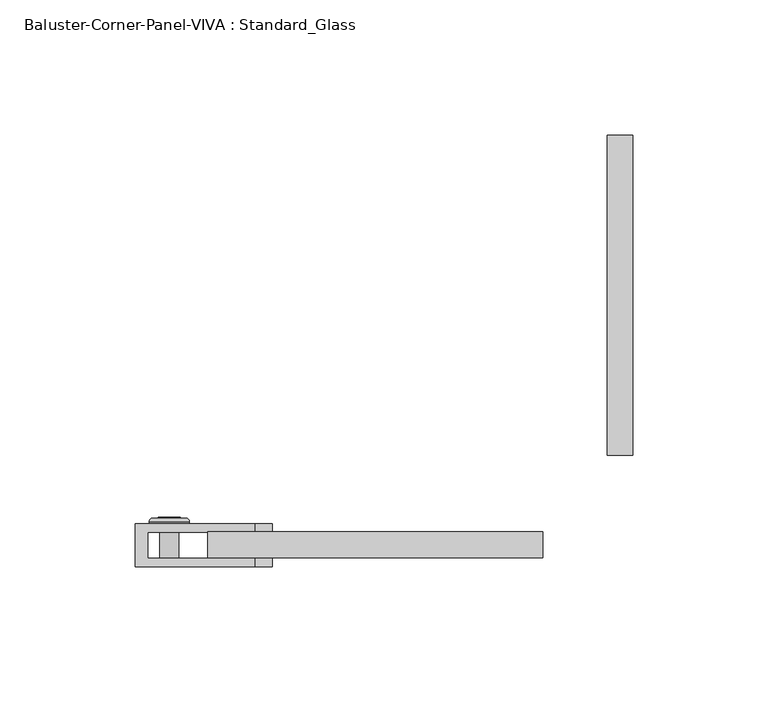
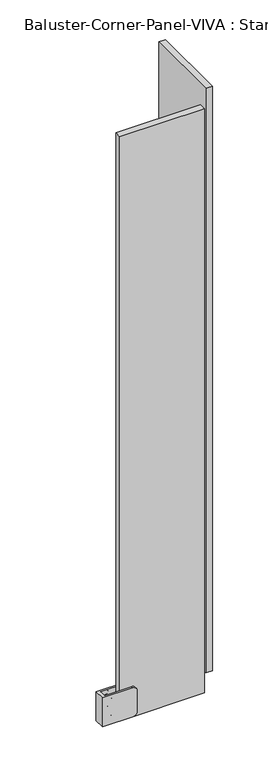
"""IFC4 building model written with IfcOpenShell, lengths in millimetres: railing geometry, Baluster-Corner-Panel-VIVA : Standard_Glass."""

import ifcopenshell
import ifcopenshell.guid

model = None  # the IFC model being written
_history = None  # IfcOwnerHistory: only IFC2X3 demands one
_inside = {}  # id of a spatial element -> (the spatial element, [elements in it])
_under = {}  # id of a project, library or spatial element -> (it, [spatial elements below it])
_declared = {}  # id of a project -> (the project, [libraries it declares])
_typed = {}  # id of a type object -> (the type object, [elements of that type])
_made_of = {}  # id of a material, layer set ... -> (it, [elements and type objects made of it])


def new_model(schema):
    """Start an empty IFC model of exactly this schema.

    Asked for "IFC4X3", IfcOpenShell would pick the latest addendum, in which some entities
    have other attributes; the version numbers below select the first issue.
    IFC2X3 requires an IfcOwnerHistory on every rooted entity: one is made here for all.
    """
    global model, _history
    if schema == "IFC4X3":
        model = ifcopenshell.file(schema_version=(4, 3, 0, 0))
    else:
        model = ifcopenshell.file(schema=schema)
    _inside.clear()
    _under.clear()
    _declared.clear()
    _typed.clear()
    _made_of.clear()
    _history = None
    if model.schema == "IFC2X3":
        org = make("IfcOrganization", Name="unknown")
        user = make(
            "IfcPersonAndOrganization",
            ThePerson=make("IfcPerson", FamilyName="unknown"),
            TheOrganization=org,
        )
        app = make(
            "IfcApplication",
            ApplicationDeveloper=org,
            Version="unknown",
            ApplicationFullName="unknown",
            ApplicationIdentifier="unknown",
        )
        _history = make(
            "IfcOwnerHistory",
            OwningUser=user,
            OwningApplication=app,
            ChangeAction="ADDED",
            CreationDate=0,
        )
    return model


def make(cls, **values):
    """One entity of the class cls with the attributes given. An attribute that is None is left unset."""
    return model.create_entity(
        cls, **{name: value for name, value in values.items() if value is not None}
    )


def rooted(cls, **values):
    """An entity with a GlobalId (a new one), such as an element, a storey or a relation."""
    return make(cls, GlobalId=ifcopenshell.guid.new(), OwnerHistory=_history, **values)


def si_unit(unit_type, name, prefix=None):
    """IfcSIUnit, for example si_unit("LENGTHUNIT", "METRE", prefix="MILLI")."""
    return make("IfcSIUnit", UnitType=unit_type, Prefix=prefix, Name=name)


def assignment(units):
    """IfcUnitAssignment: the units of a project."""
    return None if units is None else make("IfcUnitAssignment", Units=units)


def point(xyz):
    """IfcCartesianPoint."""
    return None if xyz is None else make("IfcCartesianPoint", Coordinates=xyz)


def direction(xyz):
    """IfcDirection."""
    return None if xyz is None else make("IfcDirection", DirectionRatios=xyz)


def frame(location, z_axis=None, x_axis=None):
    """IfcAxis2Placement3D, a coordinate frame: its origin and axes. An axis left out is left unset."""
    return make(
        "IfcAxis2Placement3D",
        Location=point(location),
        Axis=direction(z_axis),
        RefDirection=direction(x_axis),
    )


def origin():
    """The frame at (0, 0, 0) with its axes left unset."""
    return frame((0.0, 0.0, 0.0))


def place(relative_to, where):
    """IfcLocalPlacement: puts the frame where relative to a parent placement (None: the world)."""
    return make(
        "IfcLocalPlacement", PlacementRelTo=relative_to, RelativePlacement=where
    )


def context(
    kind, dimensions, precision=None, world=None, true_north=None, identifier=None
):
    """IfcGeometricRepresentationContext, for example the 3D "Model" context."""
    return make(
        "IfcGeometricRepresentationContext",
        ContextIdentifier=identifier,
        ContextType=kind,
        CoordinateSpaceDimension=dimensions,
        Precision=precision,
        WorldCoordinateSystem=world,
        TrueNorth=true_north,
    )


def project(units=None, contexts=None):
    """IfcProject with its units and contexts."""
    return rooted(
        "IfcProject",
        Name="project",
        RepresentationContexts=contexts,
        UnitsInContext=assignment(units),
    )


def spatial(cls, under=None, at=None, **own):
    """A site, building, storey or space (cls), placed at a placement, below another one or the project."""
    s = rooted(cls, ObjectPlacement=at, **own)
    if under is not None:
        _under.setdefault(under.id(), (under, []))[1].append(s)
    return s


def polyline(points):
    """IfcPolyline through the points."""
    return make("IfcPolyline", Points=[point(p) for p in points])


def circle_curve(where, radius):
    """IfcCircle in the frame where."""
    return make("IfcCircle", Position=where, Radius=radius)


def ellipse_curve(where, semi_axis1, semi_axis2):
    """IfcEllipse in the frame where."""
    return make(
        "IfcEllipse", Position=where, SemiAxis1=semi_axis1, SemiAxis2=semi_axis2
    )


def trimmed(basis, trim1, trim2, sense, master):
    """IfcTrimmedCurve: the piece of a basis curve between two trims."""
    return make(
        "IfcTrimmedCurve",
        BasisCurve=basis,
        Trim1=trim1,
        Trim2=trim2,
        SenseAgreement=sense,
        MasterRepresentation=master,
    )


def outline(outer, holes=None, kind="AREA"):
    """IfcArbitraryClosedProfileDef: a profile drawn as a closed curve; with holes, ...WithVoids."""
    if holes is None:
        return make("IfcArbitraryClosedProfileDef", ProfileType=kind, OuterCurve=outer)
    return make(
        "IfcArbitraryProfileDefWithVoids",
        ProfileType=kind,
        OuterCurve=outer,
        InnerCurves=holes,
    )


def extrude(swept, where, along, depth):
    """IfcExtrudedAreaSolid: the profile swept, set in the frame where, extruded along a direction by depth."""
    return make(
        "IfcExtrudedAreaSolid",
        SweptArea=swept,
        Position=where,
        ExtrudedDirection=direction(along),
        Depth=depth,
    )


def shape(context_of_items, identifier, shape_type, items):
    """IfcShapeRepresentation: the items that make up one representation, for example the "Body"."""
    return make(
        "IfcShapeRepresentation",
        ContextOfItems=context_of_items,
        RepresentationIdentifier=identifier,
        RepresentationType=shape_type,
        Items=items,
    )


def source(mapping_origin, context_of_items, identifier, shape_type, items):
    """IfcRepresentationMap: a shape defined once, which mapped items show again and again."""
    return make(
        "IfcRepresentationMap",
        MappingOrigin=mapping_origin,
        MappedRepresentation=shape(context_of_items, identifier, shape_type, items),
    )


def transform(
    local_origin,
    x_axis=None,
    y_axis=None,
    z_axis=None,
    scale=None,
    scale2=None,
    scale3=None,
    uniform=True,
):
    """IfcCartesianTransformationOperator3D, or its non-uniform kind. x_axis, y_axis, z_axis: its Axis1, 2, 3."""
    if uniform:
        return make(
            "IfcCartesianTransformationOperator3D",
            Axis1=direction(x_axis),
            Axis2=direction(y_axis),
            LocalOrigin=point(local_origin),
            Scale=scale,
            Axis3=direction(z_axis),
        )
    return make(
        "IfcCartesianTransformationOperator3DnonUniform",
        Axis1=direction(x_axis),
        Axis2=direction(y_axis),
        LocalOrigin=point(local_origin),
        Scale=scale,
        Axis3=direction(z_axis),
        Scale2=scale2,
        Scale3=scale3,
    )


def mapped(mapping_source, mapping_target):
    """IfcMappedItem: shows the shape of a source again, moved by a transform."""
    return make(
        "IfcMappedItem", MappingSource=mapping_source, MappingTarget=mapping_target
    )


def made_of(thing, what):
    """Note that an element or type object is made of a material, layer set ...; save() writes the relation."""
    if what is not None:
        _made_of.setdefault(what.id(), (what, []))[1].append(thing)
    return thing


def element(
    cls,
    number,
    at=None,
    inside=None,
    cuts=None,
    type_object=None,
    material=None,
    context=None,
    identifier="Body",
    shape_type=None,
    held_by="IfcProductDefinitionShape",
    body=None,
    shapes=None,
    **own,
):
    """One element of the class cls, such as IfcWall. Its Tag is "e" and its number.

    at: its placement. inside: the storey or other place that contains it. cuts: it is an
    opening in that element (IfcRelVoidsElement). A single representation is given by context,
    identifier, shape_type and body (its items); several are given by shapes. held_by: the class
    of the entity that holds the representations. save() writes the other relations.
    """
    e = rooted(cls, Tag="e%d" % number, ObjectPlacement=at, **own)
    if body is not None:
        shapes = [shape(context, identifier, shape_type, body)]
    if shapes is not None:
        e.Representation = make(held_by, Representations=shapes)
    if inside is not None:
        _inside.setdefault(inside.id(), (inside, []))[1].append(e)
    if cuts is not None:
        rooted(
            "IfcRelVoidsElement", RelatingBuildingElement=cuts, RelatedOpeningElement=e
        )
    if type_object is not None:
        _typed.setdefault(type_object.id(), (type_object, []))[1].append(e)
    return made_of(e, material)


def aggregate(whole, parts):
    """IfcRelAggregates: a whole, such as a stair, and the parts it consists of."""
    return rooted("IfcRelAggregates", RelatingObject=whole, RelatedObjects=parts)


def save(model, path):
    """Write the relations noted so far, then the file.

    IfcRelAggregates (storeys below a building ...), IfcRelContainedInSpatialStructure (elements
    in a storey), IfcRelDefinesByType, IfcRelAssociatesMaterial and IfcRelDeclares: one each for
    every whole, place, type object, material and project.
    """
    for whole, parts in _under.values():
        aggregate(whole, parts)
    for where, things in _inside.values():
        rooted(
            "IfcRelContainedInSpatialStructure",
            RelatedElements=things,
            RelatingStructure=where,
        )
    for kind, things in _typed.values():
        rooted("IfcRelDefinesByType", RelatedObjects=things, RelatingType=kind)
    for what, things in _made_of.values():
        rooted("IfcRelAssociatesMaterial", RelatedObjects=things, RelatingMaterial=what)
    for by, libraries in _declared.values():
        rooted("IfcRelDeclares", RelatingContext=by, RelatedDefinitions=libraries)
    model.write(path)


def plane_surface(at):
    """IfcPlane: the flat surface through the origin of the frame at, square to its z axis."""
    return make("IfcPlane", Position=at)


def cylinder_surface(at, radius):
    """IfcCylindricalSurface: all points at the distance radius from the z axis of the frame at."""
    return make("IfcCylindricalSurface", Position=at, Radius=radius)


def revolved_surface(curve, axis_point, axis_direction):
    """IfcSurfaceOfRevolution: the curve turned about the line through axis_point along axis_direction."""
    return make(
        "IfcSurfaceOfRevolution",
        SweptCurve=make("IfcArbitraryOpenProfileDef", ProfileType="CURVE", Curve=curve),
        AxisPosition=make("IfcAxis1Placement", Location=point(axis_point), Axis=direction(axis_direction)),
    )


def advanced_brep(points, edges, surfaces, faces):
    """IfcAdvancedBrep: a solid bounded by faces that lie on surfaces and meet in shared edges.

    An edge is (start, end): straight between two places in points (the first is 0);
    or (start, end, curve); or (start, end, curve, False) where it runs against its curve.
    A face is (place in surfaces, loops), or (place, loops, False) where it looks against
    its surface's normal. A loop lists edges by number (the first is 1), with a minus sign
    where the edge is run from its end to its start. The first loop is the outer one.
    """
    corners = [point(p) for p in points]
    vertices = [make("IfcVertexPoint", VertexGeometry=c) for c in corners]
    made = []
    for start, end, *more in edges:
        made.append(
            make(
                "IfcEdgeCurve",
                EdgeStart=vertices[start],
                EdgeEnd=vertices[end],
                EdgeGeometry=more[0] if more else make("IfcPolyline", Points=[corners[start], corners[end]]),
                SameSense=more[1] if len(more) > 1 else True,
            )
        )
    hull = []
    for where, loops, *sense in faces:
        bounds = []
        for j, loop in enumerate(loops):
            ring = [make("IfcOrientedEdge", EdgeElement=made[abs(k) - 1], Orientation=k > 0) for k in loop]
            bounds.append(
                make(
                    "IfcFaceOuterBound" if j == 0 else "IfcFaceBound",
                    Bound=make("IfcEdgeLoop", EdgeList=ring),
                    Orientation=True,
                )
            )
        hull.append(make("IfcAdvancedFace", Bounds=bounds, FaceSurface=surfaces[where], SameSense=sense[0] if sense else True))
    return make("IfcAdvancedBrep", Outer=make("IfcClosedShell", CfsFaces=hull))


def baluster_corner_panel_viva_standard_glass_3b5f7ec9(model_context):
    return source(origin(), model_context, "Body", "SolidModel", [
        advanced_brep(
        [(-138.2934624, -36.7665, 138.7358896), (-138.2934624, -24.0665, 138.7358896), (-131.2025705, -24.0665, 138.7358896), (-131.2025705, -36.7665, 138.7358896), (-142.1558055, -24.0665, 138.7358896), (-127.3402274, -24.0665, 138.7358896), (-136.4040918, -23.199388, 138.7358896), (-136.4040918, -36.7665, 138.7358896), (-133.0919411, -36.7665, 138.7358896), (-133.0919411, -23.199388, 138.7358896), (-142.1558055, -23.2316551, 138.7358896), (-140.8745335, -21.9503831, 138.7358896), (-128.6214994, -21.9503831, 138.7358896), (-127.3402274, -23.2316551, 138.7358896), (-139.046612, -21.9503831, 138.7358896), (-130.4494209, -21.9503831, 138.7358896), (-139.046612, -23.199388, 138.7358896), (-130.4494209, -23.199388, 138.7358896)],
        [
            (0, 1),
            (1, 2, circle_curve(frame((-134.7480164, -24.0665, 138.7358896), z_axis=(0.0, -1.0, 0.0), x_axis=(1.0, 0.0, 0.0)), 3.5454459)),
            (2, 3),
            (3, 0, circle_curve(frame((-134.7480164, -36.7665, 138.7358896), z_axis=(0.0, 1.0, 0.0), x_axis=(1.0, 0.0, 0.0)), 3.5454459)),
            (2, 1, circle_curve(frame((-134.7480164, -24.0665, 138.7358896), z_axis=(0.0, -1.0, 0.0), x_axis=(1.0, 0.0, 0.0)), 3.5454459)),
            (0, 3, circle_curve(frame((-134.7480164, -36.7665, 138.7358896), z_axis=(0.0, 1.0, 0.0), x_axis=(1.0, 0.0, 0.0)), 3.5454459)),
            (1, 4),
            (4, 5, circle_curve(frame((-134.7480164, -24.0665, 138.7358896), z_axis=(0.0, -1.0, 0.0), x_axis=(1.0, 0.0, 0.0)), 7.4077891)),
            (5, 2),
            (5, 4, circle_curve(frame((-134.7480164, -24.0665, 138.7358896), z_axis=(0.0, -1.0, 0.0), x_axis=(1.0, 0.0, 0.0)), 7.4077891)),
            (6, 7),
            (7, 8, circle_curve(frame((-134.7480164, -36.7665, 138.7358896), z_axis=(0.0, -1.0, 0.0), x_axis=(1.0, 0.0, 0.0)), 1.6560754)),
            (8, 9),
            (9, 6, circle_curve(frame((-134.7480164, -23.199388, 138.7358896), z_axis=(0.0, 1.0, 0.0), x_axis=(1.0, 0.0, 0.0)), 1.6560754)),
            (8, 7, circle_curve(frame((-134.7480164, -36.7665, 138.7358896), z_axis=(0.0, -1.0, 0.0), x_axis=(1.0, 0.0, 0.0)), 1.6560754)),
            (6, 9, circle_curve(frame((-134.7480164, -23.199388, 138.7358896), z_axis=(0.0, 1.0, 0.0), x_axis=(1.0, 0.0, 0.0)), 1.6560754)),
            (10, 11, circle_curve(frame((-140.8745335, -23.2316551, 138.7358896), z_axis=(0.0, 0.0, -1.0), x_axis=(-1.0, 0.0, 0.0)), 1.281272)),
            (11, 12, circle_curve(frame((-134.7480164, -21.9503831, 138.7358896), z_axis=(0.0, -1.0, 0.0), x_axis=(1.0, 0.0, 0.0)), 6.1265171)),
            (12, 13, circle_curve(frame((-128.6214994, -23.2316551, 138.7358896), z_axis=(0.0, 0.0, -1.0), x_axis=(1.0, 0.0, 0.0)), 1.281272)),
            (13, 10, circle_curve(frame((-134.7480164, -23.2316551, 138.7358896), z_axis=(0.0, 1.0, 0.0), x_axis=(1.0, 0.0, 0.0)), 7.4077891)),
            (12, 11, circle_curve(frame((-134.7480164, -21.9503831, 138.7358896), z_axis=(0.0, -1.0, 0.0), x_axis=(1.0, 0.0, 0.0)), 6.1265171)),
            (10, 13, circle_curve(frame((-134.7480164, -23.2316551, 138.7358896), z_axis=(0.0, 1.0, 0.0), x_axis=(1.0, 0.0, 0.0)), 7.4077891)),
            (11, 14),
            (14, 15, circle_curve(frame((-134.7480164, -21.9503831, 138.7358896), z_axis=(0.0, -1.0, 0.0), x_axis=(1.0, 0.0, 0.0)), 4.2985955)),
            (15, 12),
            (15, 14, circle_curve(frame((-134.7480164, -21.9503831, 138.7358896), z_axis=(0.0, -1.0, 0.0), x_axis=(1.0, 0.0, 0.0)), 4.2985955)),
            (4, 10),
            (13, 5),
            (7, 0),
            (3, 8),
            (14, 16),
            (16, 17, circle_curve(frame((-134.7480164, -23.199388, 138.7358896), z_axis=(0.0, -1.0, 0.0), x_axis=(1.0, 0.0, 0.0)), 4.2985955)),
            (17, 15),
            (17, 16, circle_curve(frame((-134.7480164, -23.199388, 138.7358896), z_axis=(0.0, -1.0, 0.0), x_axis=(1.0, 0.0, 0.0)), 4.2985955)),
            (16, 6),
            (9, 17),
        ],
        [
            cylinder_surface(frame((-134.7480164, -27.5632331, 138.7358896), z_axis=(0.0, -1.0, 0.0), x_axis=(1.0, 0.0, 0.0)), 3.5454459),
            plane_surface(frame((-134.7480164, -24.0665, 138.7358896), z_axis=(0.0, -1.0, 0.0), x_axis=(1.0, 0.0, 0.0))),
            revolved_surface(polyline([(-133.09194100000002, -36.7665, 138.7358896), (-133.09194100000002, -23.199388, 138.7358896)]), (-134.7480164, -27.5632331, 138.7358896), (0.0, -1.0, 0.0)),
            revolved_surface(trimmed(ellipse_curve(frame((-128.6214994, -23.2316551, 138.7358896), z_axis=(0.0, 0.0, -1.0), x_axis=(1.0, 0.0, 0.0)), 1.281272, 1.281272), [point((-128.6214994, -21.9503831, 138.7358896))], [point((-127.3402274, -23.2316551, 138.7358896))], True, "CARTESIAN"), (-134.7480164, -27.5632331, 138.7358896), (0.0, -1.0, 0.0)),
            plane_surface(frame((-134.7480164, -21.9503831, 138.7358896), z_axis=(0.0, 1.0, 0.0), x_axis=(1.0, 0.0, 0.0))),
            cylinder_surface(frame((-134.7480164, -27.5632331, 138.7358896), z_axis=(0.0, -1.0, 0.0), x_axis=(1.0, 0.0, 0.0)), 7.4077891),
            plane_surface(frame((-134.7480164, -36.7665, 138.7358896), z_axis=(0.0, -1.0, 0.0), x_axis=(1.0, 0.0, 0.0))),
            revolved_surface(polyline([(-130.4494209, -23.199388, 138.7358896), (-130.4494209, -21.9503831, 138.7358896)]), (-134.7480164, -27.5632331, 138.7358896), (0.0, -1.0, 0.0)),
            plane_surface(frame((-134.7480164, -23.199388, 138.7358896), z_axis=(0.0, 1.0, 0.0), x_axis=(1.0, 0.0, 0.0))),
        ],
        [
            (0, [[1, 2, 3, 4]]),
            (0, [[-3, 5, -1, 6]]),
            (1, [[7, 8, 9, -2]]),
            (1, [[-9, 10, -7, -5]]),
            (2, [[11, 12, 13, 14]]),
            (2, [[-13, 15, -11, 16]]),
            (3, [[17, 18, 19, 20]]),
            (3, [[-19, 21, -17, 22]]),
            (4, [[23, 24, 25, -18]]),
            (4, [[-25, 26, -23, -21]]),
            (5, [[27, -20, 28, -8]]),
            (5, [[-28, -22, -27, -10]]),
            (6, [[29, -4, 30, -12]]),
            (6, [[-30, -6, -29, -15]]),
            (7, [[31, 32, 33, -24]]),
            (7, [[-33, 34, -31, -26]]),
            (8, [[35, -14, 36, -32]]),
            (8, [[-36, -16, -35, -34]]),
        ],
    ),
        advanced_brep(
        [(-138.2934624, -36.7665, 114.1296396), (-138.2934624, -24.0665, 114.1296396), (-131.2025705, -24.0665, 114.1296396), (-131.2025705, -36.7665, 114.1296396), (-142.1558055, -24.0665, 114.1296396), (-127.3402274, -24.0665, 114.1296396), (-136.4040918, -23.199388, 114.1296396), (-136.4040918, -36.7665, 114.1296396), (-133.0919411, -36.7665, 114.1296396), (-133.0919411, -23.199388, 114.1296396), (-142.1558055, -23.2316551, 114.1296396), (-140.8745335, -21.9503831, 114.1296396), (-128.6214994, -21.9503831, 114.1296396), (-127.3402274, -23.2316551, 114.1296396), (-139.046612, -21.9503831, 114.1296396), (-130.4494209, -21.9503831, 114.1296396), (-139.046612, -23.199388, 114.1296396), (-130.4494209, -23.199388, 114.1296396)],
        [
            (0, 1),
            (1, 2, circle_curve(frame((-134.7480164, -24.0665, 114.1296396), z_axis=(0.0, -1.0, 0.0), x_axis=(1.0, 0.0, 0.0)), 3.5454459)),
            (2, 3),
            (3, 0, circle_curve(frame((-134.7480164, -36.7665, 114.1296396), z_axis=(0.0, 1.0, 0.0), x_axis=(1.0, 0.0, 0.0)), 3.5454459)),
            (2, 1, circle_curve(frame((-134.7480164, -24.0665, 114.1296396), z_axis=(0.0, -1.0, 0.0), x_axis=(1.0, 0.0, 0.0)), 3.5454459)),
            (0, 3, circle_curve(frame((-134.7480164, -36.7665, 114.1296396), z_axis=(0.0, 1.0, 0.0), x_axis=(1.0, 0.0, 0.0)), 3.5454459)),
            (1, 4),
            (4, 5, circle_curve(frame((-134.7480164, -24.0665, 114.1296396), z_axis=(0.0, -1.0, 0.0), x_axis=(1.0, 0.0, 0.0)), 7.4077891)),
            (5, 2),
            (5, 4, circle_curve(frame((-134.7480164, -24.0665, 114.1296396), z_axis=(0.0, -1.0, 0.0), x_axis=(1.0, 0.0, 0.0)), 7.4077891)),
            (6, 7),
            (7, 8, circle_curve(frame((-134.7480164, -36.7665, 114.1296396), z_axis=(0.0, -1.0, 0.0), x_axis=(1.0, 0.0, 0.0)), 1.6560754)),
            (8, 9),
            (9, 6, circle_curve(frame((-134.7480164, -23.199388, 114.1296396), z_axis=(0.0, 1.0, 0.0), x_axis=(1.0, 0.0, 0.0)), 1.6560754)),
            (8, 7, circle_curve(frame((-134.7480164, -36.7665, 114.1296396), z_axis=(0.0, -1.0, 0.0), x_axis=(1.0, 0.0, 0.0)), 1.6560754)),
            (6, 9, circle_curve(frame((-134.7480164, -23.199388, 114.1296396), z_axis=(0.0, 1.0, 0.0), x_axis=(1.0, 0.0, 0.0)), 1.6560754)),
            (10, 11, circle_curve(frame((-140.8745335, -23.2316551, 114.1296396), z_axis=(0.0, 0.0, -1.0), x_axis=(-1.0, 0.0, 0.0)), 1.281272)),
            (11, 12, circle_curve(frame((-134.7480164, -21.9503831, 114.1296396), z_axis=(0.0, -1.0, 0.0), x_axis=(1.0, 0.0, 0.0)), 6.1265171)),
            (12, 13, circle_curve(frame((-128.6214994, -23.2316551, 114.1296396), z_axis=(0.0, 0.0, -1.0), x_axis=(1.0, 0.0, 0.0)), 1.281272)),
            (13, 10, circle_curve(frame((-134.7480164, -23.2316551, 114.1296396), z_axis=(0.0, 1.0, 0.0), x_axis=(1.0, 0.0, 0.0)), 7.4077891)),
            (12, 11, circle_curve(frame((-134.7480164, -21.9503831, 114.1296396), z_axis=(0.0, -1.0, 0.0), x_axis=(1.0, 0.0, 0.0)), 6.1265171)),
            (10, 13, circle_curve(frame((-134.7480164, -23.2316551, 114.1296396), z_axis=(0.0, 1.0, 0.0), x_axis=(1.0, 0.0, 0.0)), 7.4077891)),
            (11, 14),
            (14, 15, circle_curve(frame((-134.7480164, -21.9503831, 114.1296396), z_axis=(0.0, -1.0, 0.0), x_axis=(1.0, 0.0, 0.0)), 4.2985955)),
            (15, 12),
            (15, 14, circle_curve(frame((-134.7480164, -21.9503831, 114.1296396), z_axis=(0.0, -1.0, 0.0), x_axis=(1.0, 0.0, 0.0)), 4.2985955)),
            (7, 0),
            (3, 8),
            (4, 10),
            (13, 5),
            (14, 16),
            (16, 17, circle_curve(frame((-134.7480164, -23.199388, 114.1296396), z_axis=(0.0, -1.0, 0.0), x_axis=(1.0, 0.0, 0.0)), 4.2985955)),
            (17, 15),
            (17, 16, circle_curve(frame((-134.7480164, -23.199388, 114.1296396), z_axis=(0.0, -1.0, 0.0), x_axis=(1.0, 0.0, 0.0)), 4.2985955)),
            (16, 6),
            (9, 17),
        ],
        [
            cylinder_surface(frame((-134.7480164, -27.5632331, 114.1296396), z_axis=(0.0, -1.0, 0.0), x_axis=(1.0, 0.0, 0.0)), 3.5454459),
            plane_surface(frame((-134.7480164, -24.0665, 114.1296396), z_axis=(0.0, -1.0, 0.0), x_axis=(1.0, 0.0, 0.0))),
            revolved_surface(polyline([(-133.09194100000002, -36.7665, 114.1296396), (-133.09194100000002, -23.199388, 114.1296396)]), (-134.7480164, -27.5632331, 114.1296396), (0.0, -1.0, 0.0)),
            revolved_surface(trimmed(ellipse_curve(frame((-128.6214994, -23.2316551, 114.1296396), z_axis=(0.0, 0.0, -1.0), x_axis=(1.0, 0.0, 0.0)), 1.281272, 1.281272), [point((-128.6214994, -21.9503831, 114.1296396))], [point((-127.3402274, -23.2316551, 114.1296396))], True, "CARTESIAN"), (-134.7480164, -27.5632331, 114.1296396), (0.0, -1.0, 0.0)),
            plane_surface(frame((-134.7480164, -21.9503831, 114.1296396), z_axis=(0.0, 1.0, 0.0), x_axis=(1.0, 0.0, 0.0))),
            plane_surface(frame((-134.7480164, -36.7665, 114.1296396), z_axis=(0.0, -1.0, 0.0), x_axis=(1.0, 0.0, 0.0))),
            cylinder_surface(frame((-134.7480164, -27.5632331, 114.1296396), z_axis=(0.0, -1.0, 0.0), x_axis=(1.0, 0.0, 0.0)), 7.4077891),
            revolved_surface(polyline([(-130.4494209, -23.199388, 114.1296396), (-130.4494209, -21.9503831, 114.1296396)]), (-134.7480164, -27.5632331, 114.1296396), (0.0, -1.0, 0.0)),
            plane_surface(frame((-134.7480164, -23.199388, 114.1296396), z_axis=(0.0, 1.0, 0.0), x_axis=(1.0, 0.0, 0.0))),
        ],
        [
            (0, [[1, 2, 3, 4]]),
            (0, [[-3, 5, -1, 6]]),
            (1, [[7, 8, 9, -2]]),
            (1, [[-9, 10, -7, -5]]),
            (2, [[11, 12, 13, 14]]),
            (2, [[-13, 15, -11, 16]]),
            (3, [[17, 18, 19, 20]]),
            (3, [[-19, 21, -17, 22]]),
            (4, [[23, 24, 25, -18]]),
            (4, [[-25, 26, -23, -21]]),
            (5, [[27, -4, 28, -12]]),
            (5, [[-28, -6, -27, -15]]),
            (6, [[29, -20, 30, -8]]),
            (6, [[-30, -22, -29, -10]]),
            (7, [[31, 32, 33, -24]]),
            (7, [[-33, 34, -31, -26]]),
            (8, [[35, -14, 36, -32]]),
            (8, [[-36, -16, -35, -34]]),
        ],
    ),
        extrude(outline(polyline([(114.1296396, -138.8419447), (110.5841937, -136.7949806), (110.5841937, -132.7010523), (114.1296396, -130.6540881), (117.6750855, -132.7010523), (117.6750855, -136.7949806), (114.1296396, -138.8419447)])), frame((0.0, -23.199388, 0.0), z_axis=(0.0, 1.0, 0.0), x_axis=(0.0, 0.0, 1.0)), (0.0, 0.0, 1.0), 1.4969696),
        advanced_brep(
        [(-147.3813612, -24.0665, 148.6577646), (-102.9313612, -24.0665, 148.6577646), (-96.5813612, -24.0665, 142.3077646), (-96.5813612, -24.0665, 110.5577646), (-102.9313612, -24.0665, 104.2077646), (-147.3813612, -24.0665, 104.2077646), (-147.3813612, -39.9415, 148.6577646), (-147.3813612, -39.9415, 104.2077646), (-102.9313612, -39.9415, 104.2077646), (-96.5813612, -39.9415, 110.5577646), (-96.5813612, -39.9415, 142.3077646), (-102.9313612, -39.9415, 148.6577646), (-102.9313612, -27.2415, 104.2077646), (-142.6632808, -27.2415, 104.2077646), (-142.6632808, -36.7665, 104.2077646), (-102.9313612, -36.7665, 104.2077646), (-142.6632808, -27.2415, 148.6577646), (-142.6632808, -36.7665, 148.6577646), (-96.5813612, -27.2415, 110.5577646), (-96.5813612, -27.2415, 142.3077646), (-102.9313612, -27.2415, 148.6577646), (-102.9313612, -36.7665, 148.6577646), (-96.5813612, -36.7665, 142.3077646), (-96.5813612, -36.7665, 110.5577646)],
        [
            (0, 1),
            (1, 2, circle_curve(frame((-102.9313612, -24.0665, 142.3077646), z_axis=(0.0, 1.0, 0.0), x_axis=(1.0, 0.0, 0.0)), 6.35)),
            (2, 3),
            (3, 4, circle_curve(frame((-102.9313612, -24.0665, 110.5577646), z_axis=(0.0, 1.0, 0.0), x_axis=(1.0, 0.0, 0.0)), 6.35)),
            (4, 5),
            (5, 0),
            (6, 7),
            (7, 8),
            (8, 9, circle_curve(frame((-102.9313612, -39.9415, 110.5577646), z_axis=(0.0, -1.0, 0.0), x_axis=(1.0, 0.0, 0.0)), 6.35)),
            (9, 10),
            (10, 11, circle_curve(frame((-102.9313612, -39.9415, 142.3077646), z_axis=(0.0, -1.0, 0.0), x_axis=(1.0, 0.0, 0.0)), 6.35)),
            (11, 6),
            (5, 7),
            (6, 0),
            (4, 12),
            (12, 13),
            (13, 14),
            (14, 15),
            (15, 8),
            (13, 16),
            (16, 17),
            (17, 14),
            (12, 18, circle_curve(frame((-102.9313612, -27.2415, 110.5577646), z_axis=(0.0, -1.0, 0.0), x_axis=(1.0, 0.0, 0.0)), 6.35)),
            (18, 19),
            (19, 20, circle_curve(frame((-102.9313612, -27.2415, 142.3077646), z_axis=(0.0, -1.0, 0.0), x_axis=(1.0, 0.0, 0.0)), 6.35)),
            (20, 16),
            (17, 21),
            (21, 22, circle_curve(frame((-102.9313612, -36.7665, 142.3077646), z_axis=(0.0, 1.0, 0.0), x_axis=(1.0, 0.0, 0.0)), 6.35)),
            (22, 23),
            (23, 15, circle_curve(frame((-102.9313612, -36.7665, 110.5577646), z_axis=(0.0, 1.0, 0.0), x_axis=(1.0, 0.0, 0.0)), 6.35)),
            (23, 9),
            (3, 18),
            (22, 10),
            (2, 19),
            (21, 11),
            (1, 20),
        ],
        [
            plane_surface(frame((-147.3813612, -24.0665, 104.2077646), z_axis=(0.0, 1.0, 0.0), x_axis=(0.0, 0.0, -1.0))),
            plane_surface(frame((-147.3813612, -39.9415, 104.2077646), z_axis=(0.0, -1.0, 0.0), x_axis=(0.0, 0.0, 1.0))),
            plane_surface(frame((-147.3813612, -24.0665, 148.6577646), z_axis=(-1.0, 0.0, 0.0), x_axis=(0.0, -1.0, 0.0))),
            plane_surface(frame((-147.3813612, -24.0665, 104.2077646), z_axis=(0.0, 0.0, -1.0), x_axis=(0.0, -1.0, 0.0))),
            plane_surface(frame((-142.6632808, -36.7665, 161.3577646), z_axis=(1.0, 0.0, 0.0), x_axis=(0.0, 0.0, -1.0))),
            plane_surface(frame((-142.6632808, -27.2415, 161.3577646), z_axis=(0.0, -1.0, 0.0), x_axis=(0.0, 0.0, -1.0))),
            plane_surface(frame((-83.8813612, -36.7665, 161.3577646), z_axis=(0.0, 1.0, 0.0), x_axis=(0.0, 0.0, -1.0))),
            cylinder_surface(frame((-102.9313612, -39.9415, 110.5577646), z_axis=(0.0, 1.0, 0.0), x_axis=(1.0, 0.0, 0.0)), 6.35),
            plane_surface(frame((-96.5813612, -24.0665, 110.5577646), z_axis=(1.0, 0.0, 0.0), x_axis=(0.0, -1.0, 0.0))),
            cylinder_surface(frame((-102.9313612, -39.9415, 142.3077646), z_axis=(0.0, 1.0, 0.0), x_axis=(1.0, 0.0, 0.0)), 6.35),
            plane_surface(frame((-102.9313612, -24.0665, 148.6577646), z_axis=(0.0, 0.0, 1.0), x_axis=(0.0, -1.0, 0.0))),
        ],
        [
            (0, [[1, 2, 3, 4, 5, 6]]),
            (1, [[7, 8, 9, 10, 11, 12]]),
            (2, [[13, -7, 14, -6]]),
            (3, [[15, 16, 17, 18, 19, -8, -13, -5]]),
            (4, [[-17, 20, 21, 22]]),
            (5, [[-16, 23, 24, 25, 26, -20]]),
            (6, [[27, 28, 29, 30, -18, -22]]),
            (7, [[-19, -30, 31, -9]]),
            (7, [[32, -23, -15, -4]]),
            (8, [[-31, -29, 33, -10]]),
            (8, [[34, -24, -32, -3]]),
            (9, [[-33, -28, 35, -11]]),
            (9, [[36, -25, -34, -2]]),
            (10, [[-14, -12, -35, -27, -21, -26, -36, -1]]),
        ],
    ),
        extrude(outline(polyline([(36.7665, 1.0851207), (27.2415, 1.0851207), (27.2415, 119.5826055), (36.7665, 119.5826055), (36.7665, 1.0851207)])), frame((0.0, 0.0, 101.6), z_axis=(0.0, 0.0, 1.0), x_axis=(1.0, 0.0, 0.0)), (0.0, 0.0, 1.0), 901.7),
        extrude(outline(polyline([(-120.4382808, -36.7665), (-120.4382808, -27.2415), (3.429, -27.2415), (3.429, -36.7665), (-120.4382808, -36.7665)])), frame((0.0, 0.0, 101.6), z_axis=(0.0, 0.0, 1.0), x_axis=(1.0, 0.0, 0.0)), (0.0, 0.0, 1.0), 901.7),
    ])


if __name__ == "__main__":
    model = new_model("IFC4")
    model_context = context("Model", 3, world=origin())
    ifc_project = project(units=[si_unit("LENGTHUNIT", "METRE", prefix="MILLI")], contexts=[model_context])
    site = spatial("IfcSite", under=ifc_project)
    building = spatial("IfcBuilding", under=site)
    placement = place(None, origin())
    baluster_corner_panel_viva_standard_glass_shape = baluster_corner_panel_viva_standard_glass_3b5f7ec9(model_context)
    element("IfcRailing", 1, ObjectType="Baluster-Corner-Panel-VIVA : Standard_Glass", at=placement, inside=building, context=model_context, shape_type="MappedRepresentation", body=[
        mapped(baluster_corner_panel_viva_standard_glass_shape, transform((0.0, 0.0, 0.0), x_axis=(1.0, 0.0, 0.0), y_axis=(0.0, 1.0, 0.0), z_axis=(0.0, 0.0, 1.0))),
    ])
    save(model, "model.ifc")
